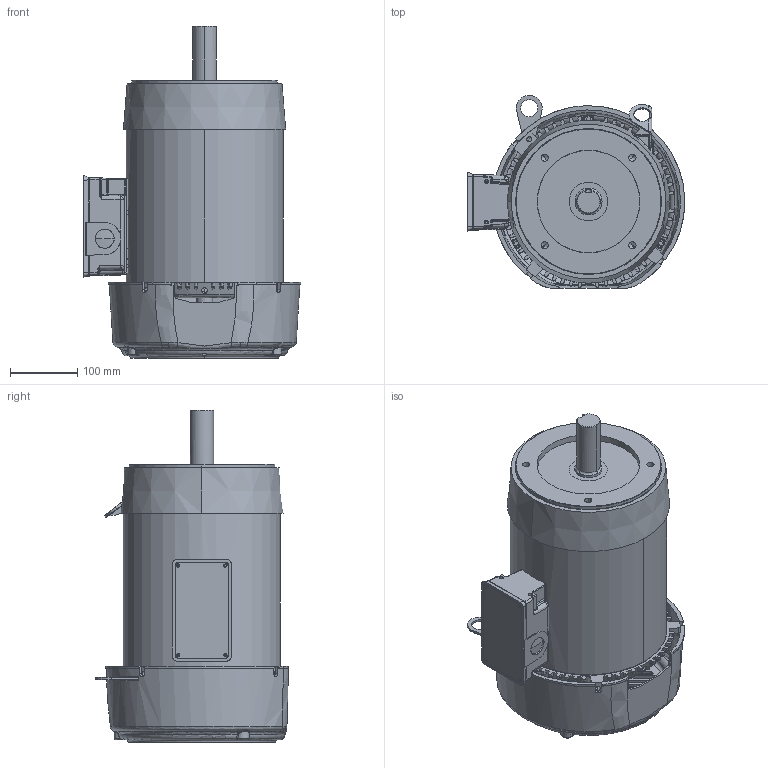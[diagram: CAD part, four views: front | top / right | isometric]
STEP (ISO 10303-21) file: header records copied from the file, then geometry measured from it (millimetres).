
FILE_DESCRIPTION((''),'2;1');
FILE_NAME('210_SSTL_ASM_ASM','2015-06-23T',('NMC2342'),('Nidec Motor Corporation'),'PRO/ENGINEER BY PARAMETRIC TECHNOLOGY CORPORATION, 2013150','PRO/ENGINEER BY PARAMETRIC TECHNOLOGY CORPORATION, 2013150','');
FILE_SCHEMA(('CONFIG_CONTROL_DESIGN'));
Length unit declared in the file: inch
Products named in the file (13): 0496276_AF0; 0496262; 1001103; 0345787; 0496264; 0496266; 0496267; 0904746; 0362111; 0095803; PRT0005; 0391816; 210_SSTL_ASM_ASM
Assembly tree (12 placements, depth 2):
  210_SSTL_ASM_ASM
    0496276_AF0
    0496262
    1001103
    0345787
    0496264
    0496266
    0496267
    0904746
    0362111
    0095803
    PRT0005
    0391816
Bounding box: 322.95 x 286.54 x 492.79 mm (x, y, z)
Volume: 3232538.6 mm3; surface area: 1152645.9 mm2
Topology: 14 solids, 14 shells, 2675 faces, 6736 edges, 4058 vertices
Faces by surface type: bspline 915, plane 615, cylinder 582, cone 219, torus 193, extrusion 94, sphere 57
Entity records: 121523 total; most frequent: CARTESIAN_POINT 64866, ORIENTED_EDGE 13406, DIRECTION 9388, EDGE_CURVE 6703, VERTEX_POINT 4058, AXIS2_PLACEMENT_3D 3675, B_SPLINE_CURVE_WITH_KNOTS 2869, EDGE_LOOP 2857
